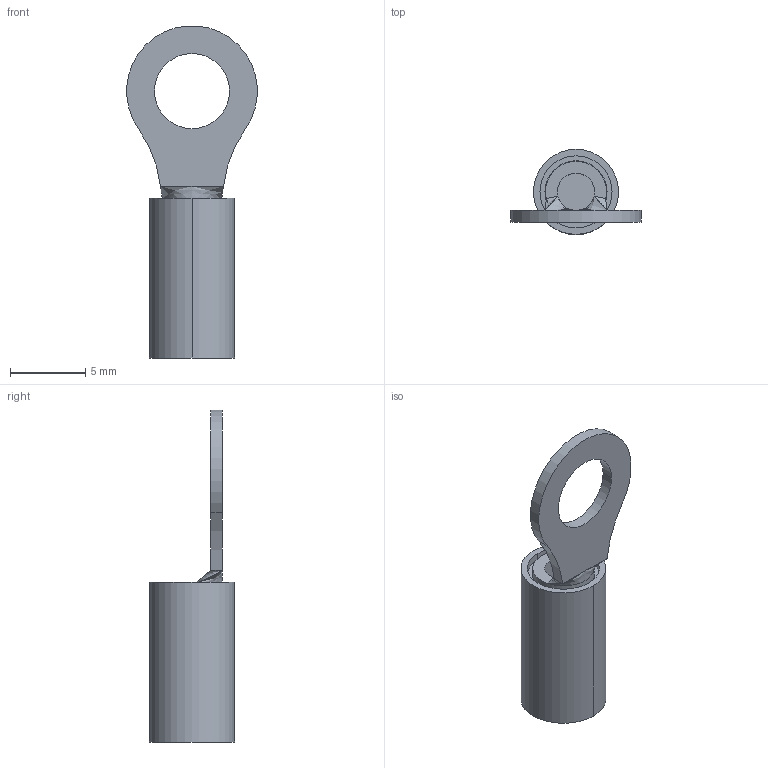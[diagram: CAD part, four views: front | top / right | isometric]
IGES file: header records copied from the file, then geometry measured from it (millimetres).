
Start section:  PTC IGES file: c-31903-ag-3d.igs
Global section: file name: c-31903-ag-3d.igs; native system: Pro/ENGINEER by Parametric Technology Corporation; preprocessor: 2008380; author: workeradm; organization: Unknown; units: millimetre
Bounding box: 8.68 x 5.66 x 22.12 mm (x, y, z)
Surface area: 538.1 mm2 (no closed solid volume)
Topology: 0 solids, 0 shells, 30 faces, 136 edges, 136 vertices
Faces by surface type: revolution 17, bspline 13
